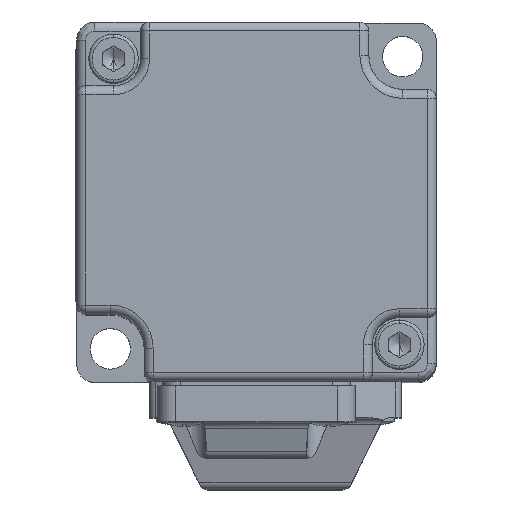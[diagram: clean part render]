
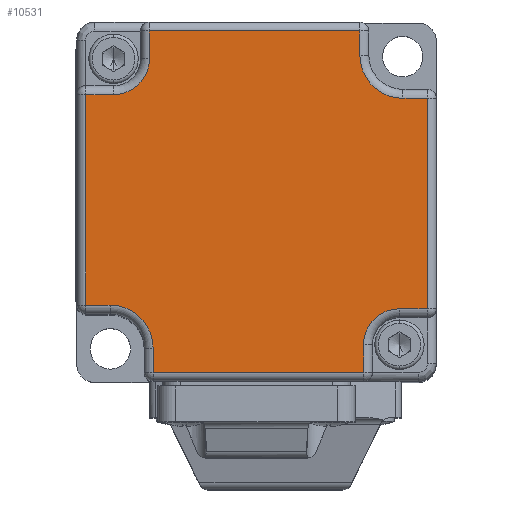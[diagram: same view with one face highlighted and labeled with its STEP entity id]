
A CAD part, top view. The second image highlights one B-rep face of the part: STEP entity #10531.
In plain terms, the highlighted planar face has unit normal (0, 0, 1).
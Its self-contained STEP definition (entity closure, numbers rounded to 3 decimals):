
#1583=CARTESIAN_POINT('',(16.73,19.139,33.913));
#1584=DIRECTION('',(0.,0.,1.));
#1585=DIRECTION('',(-1.,0.,0.));
#1586=AXIS2_PLACEMENT_3D('',#1583,#1584,#1585);
#1588=DIRECTION('',(0.,-1.,0.));
#1589=VECTOR('',#1588,23.41);
#1590=CARTESIAN_POINT('',(19.43,14.339,33.913));
#1591=LINE('',#1590,#1589);
#1592=DIRECTION('',(-1.,0.,0.));
#1593=VECTOR('',#1592,3.09);
#1594=CARTESIAN_POINT('',(19.43,-9.071,33.913));
#1595=LINE('',#1594,#1593);
#1596=CARTESIAN_POINT('',(16.34,-13.071,33.913));
#1597=DIRECTION('',(0.,0.,1.));
#1598=DIRECTION('',(0.,1.,0.));
#1599=AXIS2_PLACEMENT_3D('',#1596,#1597,#1598);
#1601=CARTESIAN_POINT('',(-15.87,-13.461,
33.913));
#1602=DIRECTION('',(0.,0.,1.));
#1603=DIRECTION('',(1.,0.,0.));
#1604=AXIS2_PLACEMENT_3D('',#1601,#1602,#1603);
#1606=CARTESIAN_POINT('',(-15.48,18.749,33.913));
#1607=DIRECTION('',(0.,0.,1.));
#1608=DIRECTION('',(0.,-1.,0.));
#1609=AXIS2_PLACEMENT_3D('',#1606,#1607,#1608);
#1611=DIRECTION('',(-1.,0.,0.));
#1612=VECTOR('',#1611,23.41);
#1613=CARTESIAN_POINT('',(11.93,21.839,33.913));
#1614=LINE('',#1613,#1612);
#1635=DIRECTION('',(0.,1.,0.));
#1636=VECTOR('',#1635,2.7);
#1637=CARTESIAN_POINT('',(11.93,19.139,33.913));
#1638=LINE('',#1637,#1636);
#1658=DIRECTION('',(-1.,0.,0.));
#1659=VECTOR('',#1658,2.7);
#1660=CARTESIAN_POINT('',(19.43,14.339,33.913));
#1661=LINE('',#1660,#1659);
#1691=DIRECTION('',(0.,-1.,0.));
#1692=VECTOR('',#1691,3.09);
#1693=CARTESIAN_POINT('',(-11.48,21.839,33.913));
#1694=LINE('',#1693,#1692);
#1705=DIRECTION('',(-1.,0.,0.));
#1706=VECTOR('',#1705,3.09);
#1707=CARTESIAN_POINT('',(-15.48,14.749,33.913));
#1708=LINE('',#1707,#1706);
#2012=DIRECTION('',(0.,-1.,0.));
#2013=VECTOR('',#2012,23.41);
#2014=CARTESIAN_POINT('',(-18.57,14.749,33.913));
#2015=LINE('',#2014,#2013);
#2035=DIRECTION('',(1.,0.,0.));
#2036=VECTOR('',#2035,2.7);
#2037=CARTESIAN_POINT('',(-18.57,-8.661,
33.913));
#2038=LINE('',#2037,#2036);
#2049=DIRECTION('',(0.,-1.,0.));
#2050=VECTOR('',#2049,2.7);
#2051=CARTESIAN_POINT('',(-11.07,-13.461,
33.913));
#2052=LINE('',#2051,#2050);
#2071=DIRECTION('',(1.,0.,0.));
#2072=VECTOR('',#2071,23.41);
#2073=CARTESIAN_POINT('',(-11.07,-16.161,
33.913));
#2074=LINE('',#2073,#2072);
#2098=DIRECTION('',(0.,1.,0.));
#2099=VECTOR('',#2098,3.09);
#2100=CARTESIAN_POINT('',(12.34,-16.161,33.913));
#2101=LINE('',#2100,#2099);
#7393=CARTESIAN_POINT('',(16.34,-9.071,33.913));
#7394=VERTEX_POINT('',#7393);
#7395=CARTESIAN_POINT('',(12.34,-13.071,33.913));
#7396=VERTEX_POINT('',#7395);
#7397=CARTESIAN_POINT('',(19.43,-9.071,33.913));
#7398=VERTEX_POINT('',#7397);
#7399=CARTESIAN_POINT('',(19.43,14.339,33.913));
#7400=VERTEX_POINT('',#7399);
#7403=CARTESIAN_POINT('',(11.93,19.139,33.913));
#7404=CARTESIAN_POINT('',(16.73,14.339,33.913));
#7405=VERTEX_POINT('',#7403);
#7406=VERTEX_POINT('',#7404);
#7407=CARTESIAN_POINT('',(-11.07,-13.461,
33.913));
#7408=CARTESIAN_POINT('',(-15.87,-8.661,
33.913));
#7409=VERTEX_POINT('',#7407);
#7410=VERTEX_POINT('',#7408);
#7411=CARTESIAN_POINT('',(-15.48,14.749,33.913));
#7412=CARTESIAN_POINT('',(-11.48,18.749,33.913));
#7413=VERTEX_POINT('',#7411);
#7414=VERTEX_POINT('',#7412);
#7419=CARTESIAN_POINT('',(11.93,21.839,33.913));
#7420=CARTESIAN_POINT('',(-11.48,21.839,33.913));
#7421=VERTEX_POINT('',#7419);
#7422=VERTEX_POINT('',#7420);
#7443=CARTESIAN_POINT('',(-18.57,14.749,33.913));
#7444=VERTEX_POINT('',#7443);
#7463=CARTESIAN_POINT('',(-18.57,-8.661,
33.913));
#7464=VERTEX_POINT('',#7463);
#7475=CARTESIAN_POINT('',(-11.07,-16.161,
33.913));
#7476=VERTEX_POINT('',#7475);
#7479=CARTESIAN_POINT('',(12.34,-16.161,33.913));
#7480=VERTEX_POINT('',#7479);
#10495=CARTESIAN_POINT('',(0.43,2.839,
33.913));
#10496=DIRECTION('',(0.,0.,1.));
#10497=DIRECTION('',(0.,-1.,0.));
#10498=AXIS2_PLACEMENT_3D('',#10495,#10496,#10497);
#10499=PLANE('',#10498);
#10501=ORIENTED_EDGE('',*,*,#10500,.F.);
#10503=ORIENTED_EDGE('',*,*,#10502,.F.);
#10505=ORIENTED_EDGE('',*,*,#10504,.T.);
#10507=ORIENTED_EDGE('',*,*,#10506,.F.);
#10508=ORIENTED_EDGE('',*,*,#10486,.T.);
#10509=ORIENTED_EDGE('',*,*,#10464,.T.);
#10510=ORIENTED_EDGE('',*,*,#10450,.T.);
#10512=ORIENTED_EDGE('',*,*,#10511,.F.);
#10514=ORIENTED_EDGE('',*,*,#10513,.F.);
#10516=ORIENTED_EDGE('',*,*,#10515,.F.);
#10518=ORIENTED_EDGE('',*,*,#10517,.T.);
#10520=ORIENTED_EDGE('',*,*,#10519,.F.);
#10522=ORIENTED_EDGE('',*,*,#10521,.F.);
#10524=ORIENTED_EDGE('',*,*,#10523,.F.);
#10526=ORIENTED_EDGE('',*,*,#10525,.T.);
#10528=ORIENTED_EDGE('',*,*,#10527,.F.);
#10529=EDGE_LOOP('',(#10501,#10503,#10505,#10507,#10508,#10509,#10510,#10512,
#10514,#10516,#10518,#10520,#10522,#10524,#10526,#10528));
#10530=FACE_OUTER_BOUND('',#10529,.F.);
#10531=ADVANCED_FACE('',(#10530),#10499,.T.);
#1587=CIRCLE('',#1586,4.8);
#1600=CIRCLE('',#1599,4.);
#1605=CIRCLE('',#1604,4.8);
#1610=CIRCLE('',#1609,4.);
#10450=EDGE_CURVE('',#7394,#7396,#1600,.T.);
#10464=EDGE_CURVE('',#7398,#7394,#1595,.T.);
#10486=EDGE_CURVE('',#7400,#7398,#1591,.T.);
#10500=EDGE_CURVE('',#7421,#7422,#1614,.T.);
#10502=EDGE_CURVE('',#7405,#7421,#1638,.T.);
#10504=EDGE_CURVE('',#7405,#7406,#1587,.T.);
#10506=EDGE_CURVE('',#7400,#7406,#1661,.T.);
#10511=EDGE_CURVE('',#7480,#7396,#2101,.T.);
#10513=EDGE_CURVE('',#7476,#7480,#2074,.T.);
#10515=EDGE_CURVE('',#7409,#7476,#2052,.T.);
#10517=EDGE_CURVE('',#7409,#7410,#1605,.T.);
#10519=EDGE_CURVE('',#7464,#7410,#2038,.T.);
#10521=EDGE_CURVE('',#7444,#7464,#2015,.T.);
#10523=EDGE_CURVE('',#7413,#7444,#1708,.T.);
#10525=EDGE_CURVE('',#7413,#7414,#1610,.T.);
#10527=EDGE_CURVE('',#7422,#7414,#1694,.T.);
